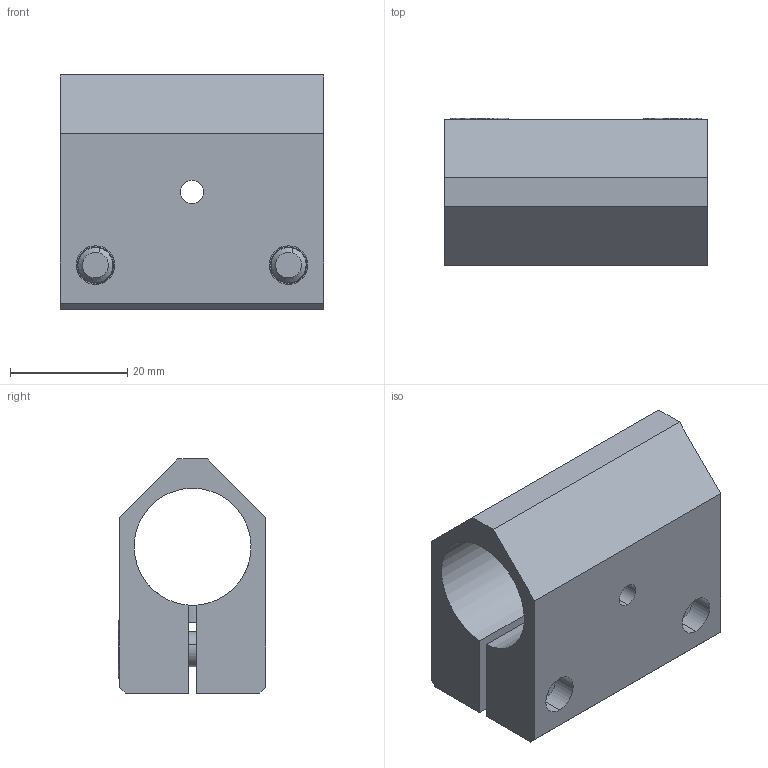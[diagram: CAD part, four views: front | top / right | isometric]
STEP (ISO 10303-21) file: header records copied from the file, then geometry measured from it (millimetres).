
FILE_DESCRIPTION (( 'STEP AP214' ), '1' );
FILE_NAME ('SMBF-2012T.STEP', '2022-12-29T01:06:50', ( 'Windows User' ), ( 'P R C' ), 'SwSTEP 2.0', 'SolidWorks 2018', '' );
FILE_SCHEMA (( 'AUTOMOTIVE_DESIGN' ));
Length unit declared in the file: millimetre
Products named in the file (1): SMBF-2012T
Bounding box: 45 x 25.2 x 40 mm (x, y, z)
Volume: 23459.3 mm3; surface area: 13147.8 mm2
Topology: 5 solids, 5 shells, 380 faces, 1098 edges, 728 vertices
Faces by surface type: plane 326, cylinder 38, cone 12, bspline 4
Entity records: 17022 total; most frequent: CARTESIAN_POINT 2415, DIRECTION 2214, ORIENTED_EDGE 2196, EDGE_CURVE 1098, AXIS2_PLACEMENT_3D 755, VERTEX_POINT 728, VECTOR 704, LINE 704
